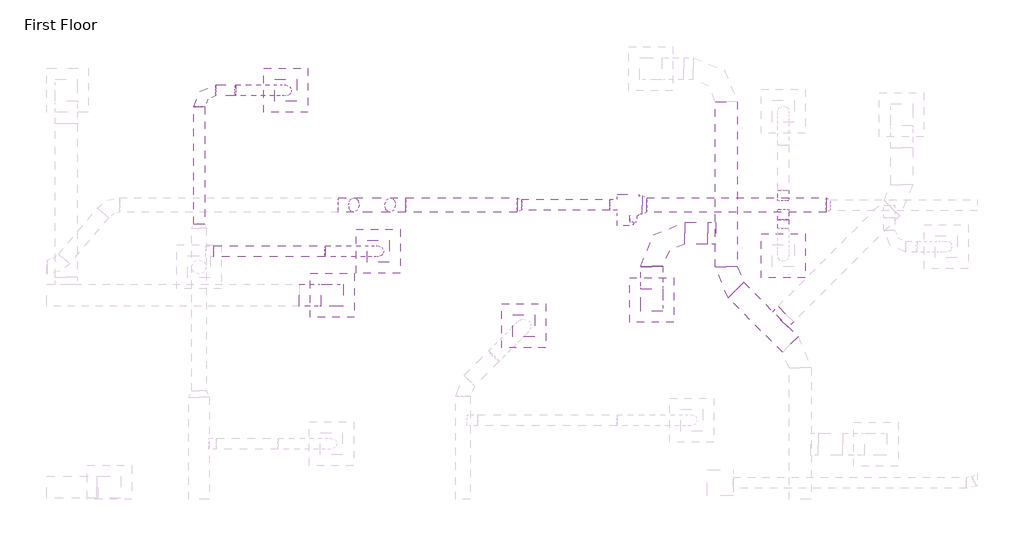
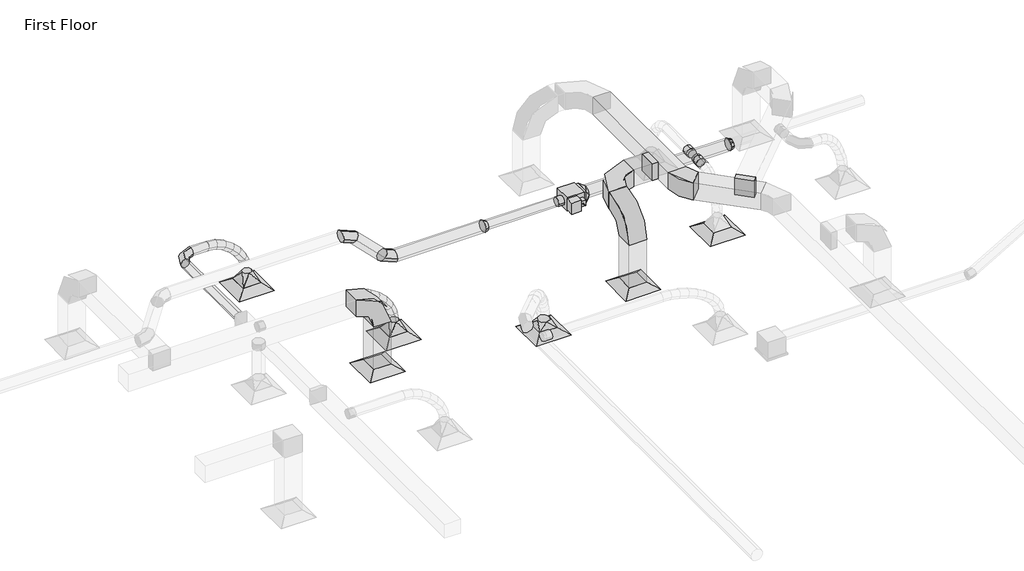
# One storey, part 31 of 61: 17 duct fittings, 16 duct segments, 6 air terminals, 1 proxy.
"""IFC4 building model written with IfcOpenShell, lengths in millimetres."""

from ifc_helpers import new_model, si_unit, point, frame, frame_2d, origin, place, context, project, spatial, polyline, circle_curve, ellipse_curve, trimmed, segment, composite_curve, outline, extrude, transform, mapped, element, save
from ifc_brep_helpers import plane_surface, cylinder_surface, advanced_brep
from components import m_exhaust_grill_er_600_x_600_face_300_x_300_connection_ff221211, m_vav_unit_single_duct_150_mm_ffdab17b, m_rectangular_elbow_radius_1_5_w_5bed5c13, m_rectangular_elbow_radius_1_5_w_86011e9f, m_rectangular_takeoff_standard_c00386d1, m_rectangular_takeoff_standard_b44bfa45, m_rectangular_to_round_transition_angle_45_degree_8f201c83, m_rectangular_to_round_transition_angle_45_degree_60daae35, m_rectangular_to_round_transition_angle_45_degree_1b7ae117, m_round_elbow_1_5_d_2e586196, m_round_elbow_1_5_d_f3829448, m_round_elbow_1_5_d_8bea4ac0, m_round_takeoff_standard_bf54a221, m_round_takeoff_standard_e1559ea3, m_round_transition_angle_45_degree_3fc7b733, m_round_transition_angle_45_degree_6d7b59ce

model = new_model("IFC4")

# Units and contexts
model_context = context("Model", 3, world=origin())
ifc_project = project(units=[si_unit("LENGTHUNIT", "METRE", prefix="MILLI")], contexts=[model_context])

# Site, building, storey
site = spatial("IfcSite", under=ifc_project)
building = spatial("IfcBuilding", under=site)
storey = spatial("IfcBuildingStorey", under=building, Name="First Floor", Elevation=0.0)

# Air terminals
placement = place(None, origin())
m_exhaust_grill_er_600_x_600_face_300_x_300_connection_shape = m_exhaust_grill_er_600_x_600_face_300_x_300_connection_ff221211(model_context)
element("IfcAirTerminal", 1, ObjectType="M_Return Register : RR-600 x 600 Face 300 x 300 Connection", at=placement, inside=storey, context=model_context, shape_type="MappedRepresentation", body=[
    mapped(m_exhaust_grill_er_600_x_600_face_300_x_300_connection_shape, transform((-6521.0475676, 24406.2905826, 2680.0), x_axis=(1.0, 0.0, 0.0), y_axis=(0.0, 1.0, 0.0), z_axis=(0.0, 0.0, 1.0))),
])
element("IfcAirTerminal", 2, ObjectType="M_Return Register : RR-600 x 600 Face 300 x 300 Connection", at=placement, inside=storey, context=model_context, shape_type="MappedRepresentation", body=[
    mapped(m_exhaust_grill_er_600_x_600_face_300_x_300_connection_shape, transform((-10865.3367225, 24469.0232506, 2680.0), x_axis=(1.0, 0.0, 0.0), y_axis=(0.0, 1.0, 0.0), z_axis=(0.0, 0.0, 1.0))),
])
element("IfcAirTerminal", 3, ObjectType="M_Supply Diffuser : SD-600 x 600 Face 300 x 300 Connection", at=placement, inside=storey, context=model_context, shape_type="MappedRepresentation", body=[
    mapped(m_exhaust_grill_er_600_x_600_face_300_x_300_connection_shape, transform((-4729.296973, 25007.077628, 2680.0), x_axis=(1.0, 0.0, 0.0), y_axis=(0.0, 1.0, 0.0), z_axis=(0.0, 0.0, 1.0))),
])
element("IfcAirTerminal", 4, ObjectType="M_Supply Diffuser : SD-600 x 600 Face 300 x 300 Connection", at=placement, inside=storey, context=model_context, shape_type="MappedRepresentation", body=[
    mapped(m_exhaust_grill_er_600_x_600_face_300_x_300_connection_shape, transform((-8260.6758163, 24053.9193172, 2680.0), x_axis=(1.0, 0.0, 0.0), y_axis=(0.0, 1.0, 0.0), z_axis=(0.0, 0.0, 1.0))),
])
element("IfcAirTerminal", 5, ObjectType="M_Supply Diffuser : SD-600 x 600 Face 300 x 300 Connection", at=placement, inside=storey, context=model_context, shape_type="MappedRepresentation", body=[
    mapped(m_exhaust_grill_er_600_x_600_face_300_x_300_connection_shape, transform((-11497.2799654, 27258.4577394, 2680.0), x_axis=(1.0, 0.0, 0.0), y_axis=(0.0, 1.0, 0.0), z_axis=(0.0, 0.0, 1.0))),
])
element("IfcAirTerminal", 6, ObjectType="M_Supply Diffuser : SD-600 x 600 Face 300 x 300 Connection", at=placement, inside=storey, context=model_context, shape_type="MappedRepresentation", body=[
    mapped(m_exhaust_grill_er_600_x_600_face_300_x_300_connection_shape, transform((-10242.3700714, 25070.5269041, 2680.0), x_axis=(1.0, 0.0, 0.0), y_axis=(0.0, 1.0, 0.0), z_axis=(0.0, 0.0, 1.0))),
])

# Proxy
m_vav_unit_single_duct_150_mm_shape = m_vav_unit_single_duct_150_mm_ffdab17b(model_context)
element("IfcBuildingElementProxy", 7, Name="M_VAV Unit - Single Duct : 150 mm", ObjectType="M_VAV Unit - Single Duct : 150 mm", at=placement, inside=storey, context=model_context, shape_type="MappedRepresentation", body=[
    mapped(m_vav_unit_single_duct_150_mm_shape, transform((-6989.2747853, 25699.0931749, 3500.0), x_axis=(1.0, 0.0, 0.0), y_axis=(0.0, 1.0, 0.0), z_axis=(0.0, 0.0, 1.0))),
])

# Duct fittings
m_rectangular_elbow_radius_1_5_w_shape = m_rectangular_elbow_radius_1_5_w_5bed5c13(model_context)
element("IfcDuctFitting", 8, ObjectType="M_Rectangular Elbow - Radius : 1.5 W", at=placement, inside=storey, context=model_context, shape_type="MappedRepresentation", body=[
    mapped(m_rectangular_elbow_radius_1_5_w_shape, transform((-5504.0823103, 24672.6856849, 4000.0), x_axis=(0.0, -1.0, 0.0), y_axis=(1.0, 0.0, 0.0), z_axis=(0.0, 0.0, 1.0))),
])
m_rectangular_elbow_radius_1_5_w_2_shape = m_rectangular_elbow_radius_1_5_w_86011e9f(model_context)
element("IfcDuctFitting", 9, ObjectType="M_Rectangular Elbow - Radius : 1.5 W", at=placement, inside=storey, context=model_context, shape_type="MappedRepresentation", body=[
    mapped(m_rectangular_elbow_radius_1_5_w_2_shape, transform((-6521.0475676, 24406.2905826, 4000.0), x_axis=(0.0, 0.0, 1.0), y_axis=(0.0, 1.0, 0.0), z_axis=(-1.0, 0.0, 0.0))),
])
element("IfcDuctFitting", 10, ObjectType="M_Rectangular Elbow - Radius : 1.5 W", at=placement, inside=storey, context=model_context, shape_type="MappedRepresentation", body=[
    mapped(m_rectangular_elbow_radius_1_5_w_2_shape, transform((-6521.0475676, 25316.7213635, 4000.0), x_axis=(-1.0, 0.0, 0.0), y_axis=(0.0, -1.0, 0.0), z_axis=(0.0, 0.0, 1.0))),
])
element("IfcDuctFitting", 11, ObjectType="M_Rectangular Elbow - Radius : 1.5 W", at=placement, inside=storey, context=model_context, shape_type="MappedRepresentation", body=[
    mapped(m_rectangular_elbow_radius_1_5_w_2_shape, transform((-10865.3367225, 24469.0232506, 4000.0), x_axis=(0.0, 0.0, 1.0), y_axis=(-1.0, 0.0, 0.0), z_axis=(0.0, -1.0, 0.0))),
])
m_rectangular_takeoff_standard_shape = m_rectangular_takeoff_standard_c00386d1(model_context)
element("IfcDuctFitting", 12, ObjectType="M_Rectangular Takeoff : Standard", at=placement, inside=storey, context=model_context, shape_type="MappedRepresentation", body=[
    mapped(m_rectangular_takeoff_standard_shape, transform((-4763.7334583, 24144.4688672, 4000.0), x_axis=(0.7071067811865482, 0.7071067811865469, 0.0), y_axis=(0.7071067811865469, -0.7071067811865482, 0.0), z_axis=(0.0, 0.0, -1.0))),
])
m_rectangular_takeoff_standard_2_shape = m_rectangular_takeoff_standard_b44bfa45(model_context)
element("IfcDuctFitting", 13, ObjectType="M_Rectangular Takeoff : Standard", at=placement, inside=storey, context=model_context, shape_type="MappedRepresentation", body=[
    mapped(m_rectangular_takeoff_standard_2_shape, transform((-5654.0823103, 25316.7213635, 4000.0), x_axis=(-1.0, 0.0, 0.0), y_axis=(0.0, 1.0, 0.0), z_axis=(0.0, 0.0, -1.0))),
])
m_rectangular_to_round_transition_angle_45_degree_shape = m_rectangular_to_round_transition_angle_45_degree_8f201c83(model_context)
element("IfcDuctFitting", 14, ObjectType="M_Rectangular to Round Transition - Angle : 45 Degree", at=placement, inside=storey, context=model_context, shape_type="MappedRepresentation", body=[
    mapped(m_rectangular_to_round_transition_angle_45_degree_shape, transform((-10242.3700714, 25070.5269041, 2781.6), x_axis=(0.0, 0.0, 1.0), y_axis=(1.0, 0.0, 0.0), z_axis=(0.0, 1.0, 0.0))),
])
element("IfcDuctFitting", 15, ObjectType="M_Rectangular to Round Transition - Angle : 45 Degree", at=placement, inside=storey, context=model_context, shape_type="MappedRepresentation", body=[
    mapped(m_rectangular_to_round_transition_angle_45_degree_shape, transform((-11497.2799654, 27258.4577394, 2781.6), x_axis=(0.0, 0.0, 1.0), y_axis=(1.0, 0.0, 0.0), z_axis=(0.0, 1.0, 0.0))),
])
m_rectangular_to_round_transition_angle_45_degree_2_shape = m_rectangular_to_round_transition_angle_45_degree_60daae35(model_context)
element("IfcDuctFitting", 16, ObjectType="M_Rectangular to Round Transition - Angle : 45 Degree", at=placement, inside=storey, context=model_context, shape_type="MappedRepresentation", body=[
    mapped(m_rectangular_to_round_transition_angle_45_degree_2_shape, transform((-8260.6758163, 24053.9193172, 2781.6), x_axis=(0.0, 0.0, 1.0), y_axis=(1.0, 0.0, 0.0), z_axis=(0.0, 1.0, 0.0))),
])
m_rectangular_to_round_transition_angle_45_degree_3_shape = m_rectangular_to_round_transition_angle_45_degree_1b7ae117(model_context)
element("IfcDuctFitting", 17, ObjectType="M_Rectangular to Round Transition - Angle : 45 Degree", at=placement, inside=storey, context=model_context, shape_type="MappedRepresentation", body=[
    mapped(m_rectangular_to_round_transition_angle_45_degree_3_shape, transform((-6646.4747853, 25699.0931749, 3619.05), x_axis=(1.0, 0.0, 0.0), y_axis=(0.0, 1.0, 0.0), z_axis=(0.0, 0.0, 1.0))),
])
m_round_elbow_1_5_d_shape = m_round_elbow_1_5_d_2e586196(model_context)
element("IfcDuctFitting", 18, ObjectType="M_Round Elbow : 1.5 D", at=placement, inside=storey, context=model_context, shape_type="MappedRepresentation", body=[
    mapped(m_round_elbow_1_5_d_shape, transform((-12680.2492424, 27258.4577394, 3644.1), x_axis=(-1.0, 0.0, 0.0), y_axis=(0.0, -1.0, 0.0), z_axis=(0.0, 0.0, 1.0))),
])
m_round_elbow_1_5_d_2_shape = m_round_elbow_1_5_d_f3829448(model_context)
element("IfcDuctFitting", 19, ObjectType="M_Round Elbow : 1.5 D", at=placement, inside=storey, context=model_context, shape_type="MappedRepresentation", body=[
    mapped(m_round_elbow_1_5_d_2_shape, transform((-10660.3747853, 25699.9431749, 4279.0), x_axis=(-0.707106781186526, 0.0, 0.707106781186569), y_axis=(-0.707106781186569, 0.0, -0.707106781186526), z_axis=(0.0, -1.0, 0.0))),
])
m_round_elbow_1_5_d_3_shape = m_round_elbow_1_5_d_8bea4ac0(model_context)
element("IfcDuctFitting", 20, ObjectType="M_Round Elbow : 1.5 D", at=placement, inside=storey, context=model_context, shape_type="MappedRepresentation", body=[
    mapped(m_round_elbow_1_5_d_3_shape, transform((-9990.8747853, 25699.9431749, 3609.5), x_axis=(-0.999999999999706, 0.0, 7.668752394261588e-07), y_axis=(7.668752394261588e-07, 0.0, 0.999999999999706), z_axis=(0.0, 1.0, 0.0))),
])
m_round_takeoff_standard_shape = m_round_takeoff_standard_bf54a221(model_context)
element("IfcDuctFitting", 21, ObjectType="M_Round Takeoff : Standard", at=placement, inside=storey, context=model_context, shape_type="MappedRepresentation", body=[
    mapped(m_round_takeoff_standard_shape, transform((-4729.296973, 25599.0931749, 3619.1), x_axis=(0.0, -1.0, 0.0), y_axis=(-1.0, 0.0, 0.0), z_axis=(0.0, 0.0, -1.0))),
])
m_round_takeoff_standard_2_shape = m_round_takeoff_standard_e1559ea3(model_context)
element("IfcDuctFitting", 22, ObjectType="M_Round Takeoff : Standard", at=placement, inside=storey, context=model_context, shape_type="MappedRepresentation", body=[
    mapped(m_round_takeoff_standard_2_shape, transform((-4729.296973, 25799.0931749, 3619.1), x_axis=(0.0, 1.0, 0.0), y_axis=(1.0, 0.0, 0.0), z_axis=(0.0, 0.0, -1.0))),
])
m_round_transition_angle_45_degree_shape = m_round_transition_angle_45_degree_3fc7b733(model_context)
element("IfcDuctFitting", 23, ObjectType="M_Round Transition - Angle : 45 Degree", at=placement, inside=storey, context=model_context, shape_type="MappedRepresentation", body=[
    mapped(m_round_transition_angle_45_degree_shape, transform((-8290.8747853, 25699.9431749, 3609.5), x_axis=(-0.9999999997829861, 0.0, -2.083333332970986e-05), y_axis=(0.0, -1.0, 0.0), z_axis=(-2.083333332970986e-05, 0.0, 0.9999999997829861))),
])
m_round_transition_angle_45_degree_2_shape = m_round_transition_angle_45_degree_6d7b59ce(model_context)
element("IfcDuctFitting", 24, ObjectType="M_Round Transition - Angle : 45 Degree", at=placement, inside=storey, context=model_context, shape_type="MappedRepresentation", body=[
    mapped(m_round_transition_angle_45_degree_2_shape, transform((-4146.4747853, 25699.0931749, 3619.1), x_axis=(1.0, 0.0, 0.0), y_axis=(0.0, 1.0, 0.0), z_axis=(0.0, 0.0, 1.0))),
])

# Duct segments
element("IfcDuctSegment", 25, ObjectType="Flex - Round", at=placement, inside=storey, context=model_context, shape_type="AdvancedBrep", body=[
    advanced_brep(
    [(-10960.2492424, 25145.5269041, 3644.1), (-10970.8108334, 25070.5269041, 3569.8473718), (-10960.2492424, 24995.5269041, 3644.1), (-10949.6876514, 25070.5269041, 3718.3526282), (-10816.5976935, 25145.5269041, 3623.6672026), (-10836.0299177, 25070.5269041, 3550.676321), (-10816.5976935, 24995.5269041, 3623.6672026), (-10797.1654693, 25070.5269041, 3696.6580842), (-10242.3700714, 25145.5269041, 2962.6660172), (-10168.2949987, 25070.5269041, 2974.4084021), (-10242.3700714, 24995.5269041, 2962.6660172), (-10316.4451441, 25070.5269041, 2950.9236323), (-10673.6435523, 25145.5269041, 3566.7194647), (-10708.2100298, 25070.5269041, 3499.75752), (-10673.6435523, 24995.5269041, 3566.7194647), (-10639.0770748, 25070.5269041, 3633.6814095), (-10539.1878504, 25145.5269041, 3479.7827678), (-10585.5150286, 25070.5269041, 3420.4250857), (-10539.1878504, 24995.5269041, 3479.7827678), (-10492.8606722, 25070.5269041, 3539.1404499), (-10421.0316197, 25145.5269041, 3369.3830932), (-10477.267375, 25070.5269041, 3319.2835236), (-10421.0316197, 24995.5269041, 3369.3830932), (-10364.7958644, 25070.5269041, 3419.4826627), (-10326.9758918, 25145.5269041, 3242.0464222), (-10392.0517313, 25070.5269041, 3203.9149372), (-10326.9758918, 24995.5269041, 3242.0464222), (-10261.9000523, 25070.5269041, 3280.1779073), (-10264.8216985, 25145.5269041, 3104.2987364), (-10337.3218502, 25070.5269041, 3082.6211986), (-10264.8216985, 24995.5269041, 3104.2987364), (-10192.3215468, 25070.5269041, 3125.9762743)],
    [
        (0, 1, circle_curve(frame((-10960.2492424, 25070.5269041, 3644.1), z_axis=(-0.9900350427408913, 0.0, 0.140821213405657), x_axis=(0.0, 1.0, 0.0)), 75.0)),
        (1, 2, circle_curve(frame((-10960.2492424, 25070.5269041, 3644.1), z_axis=(-0.9900350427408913, 0.0, 0.140821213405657), x_axis=(0.0, 1.0, 0.0)), 75.0)),
        (2, 3, circle_curve(frame((-10960.2492424, 25070.5269041, 3644.1), z_axis=(-0.9900350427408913, 0.0, 0.140821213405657), x_axis=(0.0, 1.0, 0.0)), 75.0)),
        (3, 0, circle_curve(frame((-10960.2492424, 25070.5269041, 3644.1), z_axis=(-0.9900350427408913, 0.0, 0.140821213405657), x_axis=(0.0, 1.0, 0.0)), 75.0)),
        (0, 4),
        (4, 5, ellipse_curve(frame((-10816.5976935, 25070.5269041, 3623.6672026), z_axis=(-0.9663403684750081, 0.0, 0.25726696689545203), x_axis=(-0.2572669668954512, 0.0, -0.9663403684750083)), 75.5333048, 75.0)),
        (5, 1),
        (5, 6, ellipse_curve(frame((-10816.5976935, 25070.5269041, 3623.6672026), z_axis=(-0.9663403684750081, 0.0, 0.25726696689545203), x_axis=(-0.2572669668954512, 0.0, -0.9663403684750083)), 75.5333048, 75.0)),
        (6, 2),
        (6, 7, ellipse_curve(frame((-10816.5976935, 25070.5269041, 3623.6672026), z_axis=(-0.9663403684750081, 0.0, 0.25726696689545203), x_axis=(-0.2572669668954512, 0.0, -0.9663403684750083)), 75.5333048, 75.0)),
        (7, 3),
        (7, 4, ellipse_curve(frame((-10816.5976935, 25070.5269041, 3623.6672026), z_axis=(-0.9663403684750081, 0.0, 0.25726696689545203), x_axis=(-0.2572669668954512, 0.0, -0.9663403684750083)), 75.5333048, 75.0)),
        (8, 9, circle_curve(frame((-10242.3700714, 25070.5269041, 2962.6660172), z_axis=(0.1565651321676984, 0.0, -0.9876676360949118), x_axis=(0.0, 1.0, 0.0)), 75.0)),
        (9, 10, circle_curve(frame((-10242.3700714, 25070.5269041, 2962.6660172), z_axis=(0.1565651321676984, 0.0, -0.9876676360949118), x_axis=(0.0, 1.0, 0.0)), 75.0)),
        (10, 11, circle_curve(frame((-10242.3700714, 25070.5269041, 2962.6660172), z_axis=(0.1565651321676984, 0.0, -0.9876676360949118), x_axis=(0.0, 1.0, 0.0)), 75.0)),
        (11, 8, circle_curve(frame((-10242.3700714, 25070.5269041, 2962.6660172), z_axis=(0.1565651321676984, 0.0, -0.9876676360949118), x_axis=(0.0, 1.0, 0.0)), 75.0)),
        (4, 12),
        (12, 13, ellipse_curve(frame((-10673.6435523, 25070.5269041, 3566.7194647), z_axis=(-0.8885910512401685, 0.0, 0.45870027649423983), x_axis=(-0.45870027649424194, 0.0, -0.8885910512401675)), 75.3574377, 75.0)),
        (13, 5),
        (13, 14, ellipse_curve(frame((-10673.6435523, 25070.5269041, 3566.7194647), z_axis=(-0.8885910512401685, 0.0, 0.45870027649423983), x_axis=(-0.45870027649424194, 0.0, -0.8885910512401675)), 75.3574377, 75.0)),
        (14, 6),
        (14, 15, ellipse_curve(frame((-10673.6435523, 25070.5269041, 3566.7194647), z_axis=(-0.8885910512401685, 0.0, 0.45870027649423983), x_axis=(-0.45870027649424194, 0.0, -0.8885910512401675)), 75.3574377, 75.0)),
        (15, 7),
        (15, 12, ellipse_curve(frame((-10673.6435523, 25070.5269041, 3566.7194647), z_axis=(-0.8885910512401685, 0.0, 0.45870027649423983), x_axis=(-0.45870027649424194, 0.0, -0.8885910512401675)), 75.3574377, 75.0)),
        (12, 16),
        (16, 17, ellipse_curve(frame((-10539.1878504, 25070.5269041, 3479.7827678), z_axis=(-0.78832073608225, 0.0, 0.6152645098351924), x_axis=(-0.6152645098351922, 0.0, -0.78832073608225)), 75.2963603, 75.0)),
        (17, 13),
        (17, 18, ellipse_curve(frame((-10539.1878504, 25070.5269041, 3479.7827678), z_axis=(-0.78832073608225, 0.0, 0.6152645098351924), x_axis=(-0.6152645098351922, 0.0, -0.78832073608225)), 75.2963603, 75.0)),
        (18, 14),
        (18, 19, ellipse_curve(frame((-10539.1878504, 25070.5269041, 3479.7827678), z_axis=(-0.78832073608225, 0.0, 0.6152645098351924), x_axis=(-0.6152645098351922, 0.0, -0.78832073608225)), 75.2963603, 75.0)),
        (19, 15),
        (19, 16, ellipse_curve(frame((-10539.1878504, 25070.5269041, 3479.7827678), z_axis=(-0.78832073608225, 0.0, 0.6152645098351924), x_axis=(-0.6152645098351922, 0.0, -0.78832073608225)), 75.2963603, 75.0)),
        (16, 20),
        (20, 21, ellipse_curve(frame((-10421.0316197, 25070.5269041, 3369.3830932), z_axis=(-0.665195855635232, 0.0, 0.7466689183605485), x_axis=(-0.7466689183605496, 0.0, -0.6651958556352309)), 75.3155166, 75.0)),
        (21, 17),
        (21, 22, ellipse_curve(frame((-10421.0316197, 25070.5269041, 3369.3830932), z_axis=(-0.665195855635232, 0.0, 0.7466689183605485), x_axis=(-0.7466689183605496, 0.0, -0.6651958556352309)), 75.3155166, 75.0)),
        (22, 18),
        (22, 23, ellipse_curve(frame((-10421.0316197, 25070.5269041, 3369.3830932), z_axis=(-0.665195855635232, 0.0, 0.7466689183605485), x_axis=(-0.7466689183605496, 0.0, -0.6651958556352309)), 75.3155166, 75.0)),
        (23, 19),
        (23, 20, ellipse_curve(frame((-10421.0316197, 25070.5269041, 3369.3830932), z_axis=(-0.665195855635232, 0.0, 0.7466689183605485), x_axis=(-0.7466689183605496, 0.0, -0.6651958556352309)), 75.3155166, 75.0)),
        (20, 24),
        (24, 25, ellipse_curve(frame((-10326.9758918, 25070.5269041, 3242.0464222), z_axis=(-0.5055574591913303, 0.0, 0.8627929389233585), x_axis=(-0.8627929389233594, 0.0, -0.5055574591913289)), 75.4246315, 75.0)),
        (25, 21),
        (25, 26, ellipse_curve(frame((-10326.9758918, 25070.5269041, 3242.0464222), z_axis=(-0.5055574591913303, 0.0, 0.8627929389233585), x_axis=(-0.8627929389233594, 0.0, -0.5055574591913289)), 75.4246315, 75.0)),
        (26, 22),
        (26, 27, ellipse_curve(frame((-10326.9758918, 25070.5269041, 3242.0464222), z_axis=(-0.5055574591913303, 0.0, 0.8627929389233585), x_axis=(-0.8627929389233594, 0.0, -0.5055574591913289)), 75.4246315, 75.0)),
        (27, 23),
        (27, 24, ellipse_curve(frame((-10326.9758918, 25070.5269041, 3242.0464222), z_axis=(-0.5055574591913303, 0.0, 0.8627929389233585), x_axis=(-0.8627929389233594, 0.0, -0.5055574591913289)), 75.4246315, 75.0)),
        (24, 28),
        (28, 29, ellipse_curve(frame((-10264.8216985, 25070.5269041, 3104.2987364), z_axis=(-0.2864686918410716, 0.0, 0.9580896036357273), x_axis=(-0.9580896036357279, 0.0, -0.28646869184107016)), 75.6715775, 75.0)),
        (29, 25),
        (29, 30, ellipse_curve(frame((-10264.8216985, 25070.5269041, 3104.2987364), z_axis=(-0.2864686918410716, 0.0, 0.9580896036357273), x_axis=(-0.9580896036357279, 0.0, -0.28646869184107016)), 75.6715775, 75.0)),
        (30, 26),
        (30, 31, ellipse_curve(frame((-10264.8216985, 25070.5269041, 3104.2987364), z_axis=(-0.2864686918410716, 0.0, 0.9580896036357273), x_axis=(-0.9580896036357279, 0.0, -0.28646869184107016)), 75.6715775, 75.0)),
        (31, 27),
        (31, 28, ellipse_curve(frame((-10264.8216985, 25070.5269041, 3104.2987364), z_axis=(-0.2864686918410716, 0.0, 0.9580896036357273), x_axis=(-0.9580896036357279, 0.0, -0.28646869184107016)), 75.6715775, 75.0)),
        (28, 8),
        (11, 29),
        (10, 30),
        (9, 31),
    ],
    [
        plane_surface(frame((-10960.2492424, 25145.5269041, 3644.1), z_axis=(-0.9900350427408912, 0.0, 0.14082121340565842), x_axis=(0.14082121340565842, 0.0, 0.9900350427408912))),
        cylinder_surface(frame((-10960.2492424, 25070.5269041, 3644.1), z_axis=(-0.9900350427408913, 0.0, 0.140821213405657), x_axis=(0.0, 1.0, 0.0)), 75.0),
        plane_surface(frame((-10242.3700714, 25145.5269041, 2962.6660172), z_axis=(0.15656513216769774, 0.0, -0.9876676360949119), x_axis=(0.9876676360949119, 0.0, 0.15656513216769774))),
        cylinder_surface(frame((-10816.5976935, 25070.5269041, 3623.6672026), z_axis=(-0.9289999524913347, 0.0, 0.3700798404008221), x_axis=(0.0, 1.0, 0.0)), 75.0),
        cylinder_surface(frame((-10673.6435523, 25070.5269041, 3566.7194647), z_axis=(-0.8397525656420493, 0.0, 0.5429692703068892), x_axis=(0.0, 1.0, 0.0)), 75.0),
        cylinder_surface(frame((-10539.1878504, 25070.5269041, 3479.7827678), z_axis=(-0.7306833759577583, 0.0, 0.6827164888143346), x_axis=(0.0, 1.0, 0.0)), 75.0),
        cylinder_surface(frame((-10421.0316197, 25070.5269041, 3369.3830932), z_axis=(-0.5941349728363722, 0.0, 0.8043653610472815), x_axis=(0.0, 1.0, 0.0)), 75.0),
        cylinder_surface(frame((-10326.9758918, 25070.5269041, 3242.0464222), z_axis=(-0.4112874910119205, 0.0, 0.9115056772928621), x_axis=(0.0, 1.0, 0.0)), 75.0),
        cylinder_surface(frame((-10264.8216985, 25070.5269041, 3104.2987364), z_axis=(-0.1565651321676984, 0.0, 0.9876676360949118), x_axis=(0.0, 1.0, 0.0)), 75.0),
    ],
    [
        (0, [[1, 2, 3, 4]]),
        (1, [[-1, 5, 6, 7]]),
        (1, [[-2, -7, 8, 9]]),
        (1, [[-3, -9, 10, 11]]),
        (1, [[-4, -11, 12, -5]]),
        (2, [[13, 14, 15, 16]]),
        (3, [[-6, 17, 18, 19]]),
        (3, [[-8, -19, 20, 21]]),
        (3, [[-10, -21, 22, 23]]),
        (3, [[-12, -23, 24, -17]]),
        (4, [[-18, 25, 26, 27]]),
        (4, [[-20, -27, 28, 29]]),
        (4, [[-22, -29, 30, 31]]),
        (4, [[-24, -31, 32, -25]]),
        (5, [[-26, 33, 34, 35]]),
        (5, [[-28, -35, 36, 37]]),
        (5, [[-30, -37, 38, 39]]),
        (5, [[-32, -39, 40, -33]]),
        (6, [[-34, 41, 42, 43]]),
        (6, [[-36, -43, 44, 45]]),
        (6, [[-38, -45, 46, 47]]),
        (6, [[-40, -47, 48, -41]]),
        (7, [[-42, 49, 50, 51]]),
        (7, [[-44, -51, 52, 53]]),
        (7, [[-46, -53, 54, 55]]),
        (7, [[-48, -55, 56, -49]]),
        (8, [[-50, 57, -16, 58]]),
        (8, [[-52, -58, -15, 59]]),
        (8, [[-54, -59, -14, 60]]),
        (8, [[-56, -60, -13, -57]]),
    ],
),
])
element("IfcDuctSegment", 26, ObjectType="Flex - Round", at=placement, inside=storey, context=model_context, shape_type="AdvancedBrep", body=[
    advanced_brep(
    [(-12180.2492424, 27333.4577394, 3644.1), (-12191.3782703, 27258.4577394, 3569.9302977), (-12180.2492424, 27183.4577394, 3644.1), (-12169.1202145, 27258.4577394, 3718.2697023), (-12041.1574787, 27333.4577394, 3623.2295358), (-12061.6625052, 27258.4577394, 3550.4666849), (-12041.1574787, 27183.4577394, 3623.2295358), (-12020.6524522, 27258.4577394, 3695.9923867), (-11497.2799654, 27333.4577394, 2962.6660172), (-11423.117938, 27258.4577394, 2973.8460745), (-11497.2799654, 27183.4577394, 2962.6660172), (-11571.4419929, 27258.4577394, 2951.4859598), (-11904.2116878, 27333.4577394, 3565.2605753), (-11940.4892646, 27258.4577394, 3499.1742228), (-11904.2116878, 27183.4577394, 3565.2605753), (-11867.934111, 27258.4577394, 3631.3469279), (-11776.4292308, 27333.4577394, 3477.1567668), (-11824.5835012, 27258.4577394, 3419.2591904), (-11776.4292308, 27183.4577394, 3477.1567668), (-11728.2749604, 27258.4577394, 3535.0543432), (-11664.8274689, 27333.4577394, 3365.8817585), (-11722.5901157, 27258.4577394, 3317.5644266), (-11664.8274689, 27183.4577394, 3365.8817585), (-11607.0648222, 27258.4577394, 3414.1990904), (-11576.4237633, 27333.4577394, 3238.3991986), (-11642.4286176, 27258.4577394, 3201.9675417), (-11576.4237633, 27183.4577394, 3238.3991986), (-11510.418909, 27258.4577394, 3274.8308555), (-11518.2354751, 27333.4577394, 3101.6727354), (-11590.9771199, 27258.4577394, 3081.0706823), (-11518.2354751, 27183.4577394, 3101.6727354), (-11445.4938302, 27258.4577394, 3122.2747886)],
    [
        (0, 1, circle_curve(frame((-12180.2492424, 27258.4577394, 3644.1), z_axis=(-0.9889293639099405, 0.0, 0.14838703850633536), x_axis=(0.0, 1.0, 0.0)), 75.0)),
        (1, 2, circle_curve(frame((-12180.2492424, 27258.4577394, 3644.1), z_axis=(-0.9889293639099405, 0.0, 0.14838703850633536), x_axis=(0.0, 1.0, 0.0)), 75.0)),
        (2, 3, circle_curve(frame((-12180.2492424, 27258.4577394, 3644.1), z_axis=(-0.9889293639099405, 0.0, 0.14838703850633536), x_axis=(0.0, 1.0, 0.0)), 75.0)),
        (3, 0, circle_curve(frame((-12180.2492424, 27258.4577394, 3644.1), z_axis=(-0.9889293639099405, 0.0, 0.14838703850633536), x_axis=(0.0, 1.0, 0.0)), 75.0)),
        (0, 4),
        (4, 5, ellipse_curve(frame((-12041.1574787, 27258.4577394, 3623.2295358), z_axis=(-0.9625112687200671, 0.0, 0.2712416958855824), x_axis=(-0.27124169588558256, 0.0, -0.9625112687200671)), 75.5968821, 75.0)),
        (5, 1),
        (5, 6, ellipse_curve(frame((-12041.1574787, 27258.4577394, 3623.2295358), z_axis=(-0.9625112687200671, 0.0, 0.2712416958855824), x_axis=(-0.27124169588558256, 0.0, -0.9625112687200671)), 75.5968821, 75.0)),
        (6, 2),
        (6, 7, ellipse_curve(frame((-12041.1574787, 27258.4577394, 3623.2295358), z_axis=(-0.9625112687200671, 0.0, 0.2712416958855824), x_axis=(-0.27124169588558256, 0.0, -0.9625112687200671)), 75.5968821, 75.0)),
        (7, 3),
        (7, 4, ellipse_curve(frame((-12041.1574787, 27258.4577394, 3623.2295358), z_axis=(-0.9625112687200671, 0.0, 0.2712416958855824), x_axis=(-0.27124169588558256, 0.0, -0.9625112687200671)), 75.5968821, 75.0)),
        (8, 9, circle_curve(frame((-11497.2799654, 27258.4577394, 2962.6660172), z_axis=(0.14906743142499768, 0.0, -0.9888270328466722), x_axis=(0.0, 1.0, 0.0)), 75.0)),
        (9, 10, circle_curve(frame((-11497.2799654, 27258.4577394, 2962.6660172), z_axis=(0.14906743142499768, 0.0, -0.9888270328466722), x_axis=(0.0, 1.0, 0.0)), 75.0)),
        (10, 11, circle_curve(frame((-11497.2799654, 27258.4577394, 2962.6660172), z_axis=(0.14906743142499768, 0.0, -0.9888270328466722), x_axis=(0.0, 1.0, 0.0)), 75.0)),
        (11, 8, circle_curve(frame((-11497.2799654, 27258.4577394, 2962.6660172), z_axis=(0.14906743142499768, 0.0, -0.9888270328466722), x_axis=(0.0, 1.0, 0.0)), 75.0)),
        (4, 12),
        (12, 13, ellipse_curve(frame((-11904.2116878, 27258.4577394, 3565.2605753), z_axis=(-0.8766072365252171, 0.0, 0.48120655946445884), x_axis=(-0.4812065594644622, 0.0, -0.8766072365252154)), 75.3887828, 75.0)),
        (13, 5),
        (13, 14, ellipse_curve(frame((-11904.2116878, 27258.4577394, 3565.2605753), z_axis=(-0.8766072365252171, 0.0, 0.48120655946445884), x_axis=(-0.4812065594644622, 0.0, -0.8766072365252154)), 75.3887828, 75.0)),
        (14, 6),
        (14, 15, ellipse_curve(frame((-11904.2116878, 27258.4577394, 3565.2605753), z_axis=(-0.8766072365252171, 0.0, 0.48120655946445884), x_axis=(-0.4812065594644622, 0.0, -0.8766072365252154)), 75.3887828, 75.0)),
        (15, 7),
        (15, 12, ellipse_curve(frame((-11904.2116878, 27258.4577394, 3565.2605753), z_axis=(-0.8766072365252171, 0.0, 0.48120655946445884), x_axis=(-0.4812065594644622, 0.0, -0.8766072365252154)), 75.3887828, 75.0)),
        (12, 16),
        (16, 17, ellipse_curve(frame((-11776.4292308, 27258.4577394, 3477.1567668), z_axis=(-0.7688329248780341, 0.0, 0.6394497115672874), x_axis=(-0.6394497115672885, 0.0, -0.7688329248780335)), 75.3057973, 75.0)),
        (17, 13),
        (17, 18, ellipse_curve(frame((-11776.4292308, 27258.4577394, 3477.1567668), z_axis=(-0.7688329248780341, 0.0, 0.6394497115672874), x_axis=(-0.6394497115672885, 0.0, -0.7688329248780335)), 75.3057973, 75.0)),
        (18, 14),
        (18, 19, ellipse_curve(frame((-11776.4292308, 27258.4577394, 3477.1567668), z_axis=(-0.7688329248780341, 0.0, 0.6394497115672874), x_axis=(-0.6394497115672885, 0.0, -0.7688329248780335)), 75.3057973, 75.0)),
        (19, 15),
        (19, 16, ellipse_curve(frame((-11776.4292308, 27258.4577394, 3477.1567668), z_axis=(-0.7688329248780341, 0.0, 0.6394497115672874), x_axis=(-0.6394497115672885, 0.0, -0.7688329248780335)), 75.3057973, 75.0)),
        (16, 20),
        (20, 21, ellipse_curve(frame((-11664.8274689, 27258.4577394, 3365.8817585), z_axis=(-0.6416079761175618, 0.0, 0.7670327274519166), x_axis=(-0.7670327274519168, 0.0, -0.6416079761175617)), 75.306626, 75.0)),
        (21, 17),
        (21, 22, ellipse_curve(frame((-11664.8274689, 27258.4577394, 3365.8817585), z_axis=(-0.6416079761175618, 0.0, 0.7670327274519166), x_axis=(-0.7670327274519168, 0.0, -0.6416079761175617)), 75.306626, 75.0)),
        (22, 18),
        (22, 23, ellipse_curve(frame((-11664.8274689, 27258.4577394, 3365.8817585), z_axis=(-0.6416079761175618, 0.0, 0.7670327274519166), x_axis=(-0.7670327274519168, 0.0, -0.6416079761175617)), 75.306626, 75.0)),
        (23, 19),
        (23, 20, ellipse_curve(frame((-11664.8274689, 27258.4577394, 3365.8817585), z_axis=(-0.6416079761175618, 0.0, 0.7670327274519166), x_axis=(-0.7670327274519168, 0.0, -0.6416079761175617)), 75.306626, 75.0)),
        (20, 24),
        (24, 25, ellipse_curve(frame((-11576.4237633, 27258.4577394, 3238.3991986), z_axis=(-0.48323175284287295, 0.0, 0.8754924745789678), x_axis=(-0.8754924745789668, 0.0, -0.48323175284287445)), 75.3916867, 75.0)),
        (25, 21),
        (25, 26, ellipse_curve(frame((-11576.4237633, 27258.4577394, 3238.3991986), z_axis=(-0.48323175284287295, 0.0, 0.8754924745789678), x_axis=(-0.8754924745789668, 0.0, -0.48323175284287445)), 75.3916867, 75.0)),
        (26, 22),
        (26, 27, ellipse_curve(frame((-11576.4237633, 27258.4577394, 3238.3991986), z_axis=(-0.48323175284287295, 0.0, 0.8754924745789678), x_axis=(-0.8754924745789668, 0.0, -0.48323175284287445)), 75.3916867, 75.0)),
        (27, 23),
        (27, 24, ellipse_curve(frame((-11576.4237633, 27258.4577394, 3238.3991986), z_axis=(-0.48323175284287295, 0.0, 0.8754924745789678), x_axis=(-0.8754924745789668, 0.0, -0.48323175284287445)), 75.3916867, 75.0)),
        (24, 28),
        (28, 29, ellipse_curve(frame((-11518.2354751, 27258.4577394, 3101.6727354), z_axis=(-0.27250364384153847, 0.0, 0.9621547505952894), x_axis=(-0.9621547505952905, 0.0, -0.27250364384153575)), 75.6028537, 75.0)),
        (29, 25),
        (29, 30, ellipse_curve(frame((-11518.2354751, 27258.4577394, 3101.6727354), z_axis=(-0.27250364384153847, 0.0, 0.9621547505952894), x_axis=(-0.9621547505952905, 0.0, -0.27250364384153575)), 75.6028537, 75.0)),
        (30, 26),
        (30, 31, ellipse_curve(frame((-11518.2354751, 27258.4577394, 3101.6727354), z_axis=(-0.27250364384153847, 0.0, 0.9621547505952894), x_axis=(-0.9621547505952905, 0.0, -0.27250364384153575)), 75.6028537, 75.0)),
        (31, 27),
        (31, 28, ellipse_curve(frame((-11518.2354751, 27258.4577394, 3101.6727354), z_axis=(-0.27250364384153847, 0.0, 0.9621547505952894), x_axis=(-0.9621547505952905, 0.0, -0.27250364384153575)), 75.6028537, 75.0)),
        (28, 8),
        (11, 29),
        (10, 30),
        (9, 31),
    ],
    [
        plane_surface(frame((-12180.2492424, 27333.4577394, 3644.1), z_axis=(-0.9889293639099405, 0.0, 0.14838703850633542), x_axis=(0.14838703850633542, 0.0, 0.9889293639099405))),
        cylinder_surface(frame((-12180.2492424, 27258.4577394, 3644.1), z_axis=(-0.9889293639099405, 0.0, 0.14838703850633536), x_axis=(0.0, 1.0, 0.0)), 75.0),
        plane_surface(frame((-11497.2799654, 27333.4577394, 2962.6660172), z_axis=(0.14906743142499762, 0.0, -0.9888270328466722), x_axis=(0.9888270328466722, 0.0, 0.14906743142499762))),
        cylinder_surface(frame((-12041.1574787, 27258.4577394, 3623.2295358), z_axis=(-0.9208939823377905, 0.0, 0.389813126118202), x_axis=(0.0, 1.0, 0.0)), 75.0),
        cylinder_surface(frame((-11904.2116878, 27258.4577394, 3565.2605753), z_axis=(-0.8232790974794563, 0.0, 0.5676367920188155), x_axis=(0.0, 1.0, 0.0)), 75.0),
        cylinder_surface(frame((-11776.4292308, 27258.4577394, 3477.1567668), z_axis=(-0.708142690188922, 0.0, 0.7060693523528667), x_axis=(0.0, 1.0, 0.0)), 75.0),
        cylinder_surface(frame((-11664.8274689, 27258.4577394, 3365.8817585), z_axis=(-0.5698483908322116, 0.0, 0.8217498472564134), x_axis=(0.0, 1.0, 0.0)), 75.0),
        cylinder_surface(frame((-11576.4237633, 27258.4577394, 3238.3991986), z_axis=(-0.3915939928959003, 0.0, 0.9201381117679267), x_axis=(0.0, 1.0, 0.0)), 75.0),
        cylinder_surface(frame((-11518.2354751, 27258.4577394, 3101.6727354), z_axis=(-0.14906743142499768, 0.0, 0.9888270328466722), x_axis=(0.0, 1.0, 0.0)), 75.0),
    ],
    [
        (0, [[1, 2, 3, 4]]),
        (1, [[-1, 5, 6, 7]]),
        (1, [[-2, -7, 8, 9]]),
        (1, [[-3, -9, 10, 11]]),
        (1, [[-4, -11, 12, -5]]),
        (2, [[13, 14, 15, 16]]),
        (3, [[-6, 17, 18, 19]]),
        (3, [[-8, -19, 20, 21]]),
        (3, [[-10, -21, 22, 23]]),
        (3, [[-12, -23, 24, -17]]),
        (4, [[-18, 25, 26, 27]]),
        (4, [[-20, -27, 28, 29]]),
        (4, [[-22, -29, 30, 31]]),
        (4, [[-24, -31, 32, -25]]),
        (5, [[-26, 33, 34, 35]]),
        (5, [[-28, -35, 36, 37]]),
        (5, [[-30, -37, 38, 39]]),
        (5, [[-32, -39, 40, -33]]),
        (6, [[-34, 41, 42, 43]]),
        (6, [[-36, -43, 44, 45]]),
        (6, [[-38, -45, 46, 47]]),
        (6, [[-40, -47, 48, -41]]),
        (7, [[-42, 49, 50, 51]]),
        (7, [[-44, -51, 52, 53]]),
        (7, [[-46, -53, 54, 55]]),
        (7, [[-48, -55, 56, -49]]),
        (8, [[-50, 57, -16, 58]]),
        (8, [[-52, -58, -15, 59]]),
        (8, [[-54, -59, -14, 60]]),
        (8, [[-56, -60, -13, -57]]),
    ],
),
])
element("IfcDuctSegment", 27, ObjectType="Radius Elbows / Taps", at=placement, inside=storey, context=model_context, shape_type="SweptSolid", body=[
    extrude(outline(polyline([(-4526.1684415, 23906.9038505), (-4738.3004759, 23694.7718161), (-5478.346379, 24434.8177193), (-5266.2143447, 24646.9497536), (-4526.1684415, 23906.9038505)])), frame((0.0, 0.0, 3850.0), z_axis=(0.0, 0.0, 1.0), x_axis=(1.0, 0.0, 0.0)), (0.0, 0.0, 1.0), 300.0),
])
element("IfcDuctSegment", 28, ObjectType="Radius Elbows / Taps", at=placement, inside=storey, context=model_context, shape_type="SweptSolid", body=[
    extrude(outline(polyline([(-5354.0823103, 24859.081788), (-5654.0823103, 24859.081788), (-5654.0823103, 27105.9279557), (-5354.0823103, 27105.9279557), (-5354.0823103, 24859.081788)])), frame((0.0, 0.0, 3850.0), z_axis=(0.0, 0.0, 1.0), x_axis=(1.0, 0.0, 0.0)), (0.0, 0.0, 1.0), 300.0),
])
element("IfcDuctSegment", 29, ObjectType="Radius Elbows / Taps", at=placement, inside=storey, context=model_context, shape_type="SweptSolid", body=[
    extrude(outline(polyline([(-5754.0823103, 25466.7213635), (-5754.0823103, 25166.7213635), (-6071.0475676, 25166.7213635), (-6071.0475676, 25466.7213635), (-5754.0823103, 25466.7213635)])), frame((0.0, 0.0, 3850.0), z_axis=(0.0, 0.0, 1.0), x_axis=(1.0, 0.0, 0.0)), (0.0, 0.0, 1.0), 300.0),
])
element("IfcDuctSegment", 30, ObjectType="Radius Elbows / Taps", at=placement, inside=storey, context=model_context, shape_type="SweptSolid", body=[
    extrude(outline(polyline([(-6371.0475676, 24856.2905826), (-6671.0475676, 24856.2905826), (-6671.0475676, 24866.7213635), (-6371.0475676, 24866.7213635), (-6371.0475676, 24856.2905826)])), frame((0.0, 0.0, 3850.0), z_axis=(0.0, 0.0, 1.0), x_axis=(1.0, 0.0, 0.0)), (0.0, 0.0, 1.0), 300.0),
])
element("IfcDuctSegment", 31, ObjectType="Radius Elbows / Taps", at=placement, inside=storey, context=model_context, shape_type="SweptSolid", body=[
    extrude(outline(polyline([(-6671.0475676, 24556.2905826), (-6371.0475676, 24556.2905826), (-6371.0475676, 24256.2905826), (-6671.0475676, 24256.2905826), (-6671.0475676, 24556.2905826)])), frame((0.0, 0.0, 2781.6), z_axis=(0.0, 0.0, 1.0), x_axis=(1.0, 0.0, 0.0)), (0.0, 0.0, 1.0), 768.4),
])
element("IfcDuctSegment", 32, ObjectType="Radius Elbows / Taps", at=placement, inside=storey, context=model_context, shape_type="SweptSolid", body=[
    extrude(outline(polyline([(-11015.3367225, 24319.0232506), (-11015.3367225, 24619.0232506), (-10715.3367225, 24619.0232506), (-10715.3367225, 24319.0232506), (-11015.3367225, 24319.0232506)])), frame((0.0, 0.0, 2781.6), z_axis=(0.0, 0.0, 1.0), x_axis=(1.0, 0.0, 0.0)), (0.0, 0.0, 1.0), 768.4),
])
element("IfcDuctSegment", 33, ObjectType="Taps", at=placement, inside=storey, context=model_context, shape_type="SweptSolid", body=[
    extrude(outline(composite_curve([segment(trimmed(circle_curve(frame_2d((25699.0931749, 3619.1)), 100.0), [point((25599.0931749, 3619.1))], [point((25699.0931749, 3719.1))], False, "CARTESIAN"), True, "CONTINUOUS"), segment(trimmed(circle_curve(frame_2d((25699.0931749, 3619.1)), 100.0), [point((25699.0931749, 3719.1))], [point((25799.0931749, 3619.1))], False, "CARTESIAN"), True, "CONTINUOUS"), segment(trimmed(circle_curve(frame_2d((25699.0931749, 3619.1)), 100.0), [point((25799.0931749, 3619.1))], [point((25699.0931749, 3519.1))], False, "CARTESIAN"), True, "CONTINUOUS"), segment(trimmed(circle_curve(frame_2d((25699.0931749, 3619.1)), 100.0), [point((25699.0931749, 3519.1))], [point((25599.0931749, 3619.1))], False, "CARTESIAN"), True, "CONTINUOUS")], self_intersect=False)), frame((-6586.1194462, 0.0, 0.0), z_axis=(1.0, 0.0, 0.0), x_axis=(0.0, 1.0, 0.0)), (0.0, 0.0, 1.0), 2439.6446609),
])
element("IfcDuctSegment", 34, ObjectType="Taps", at=placement, inside=storey, context=model_context, shape_type="SweptSolid", body=[
    extrude(outline(composite_curve([segment(trimmed(circle_curve(frame_2d((3619.1, -4729.296973)), 75.0), [point((3619.1, -4804.296973))], [point((3544.1, -4729.296973))], False, "CARTESIAN"), True, "CONTINUOUS"), segment(trimmed(circle_curve(frame_2d((3619.1, -4729.296973)), 75.0), [point((3544.1, -4729.296973))], [point((3619.1, -4654.296973))], False, "CARTESIAN"), True, "CONTINUOUS"), segment(trimmed(circle_curve(frame_2d((3619.1, -4729.296973)), 75.0), [point((3619.1, -4654.296973))], [point((3694.1, -4729.296973))], False, "CARTESIAN"), True, "CONTINUOUS"), segment(trimmed(circle_curve(frame_2d((3619.1, -4729.296973)), 75.0), [point((3694.1, -4729.296973))], [point((3619.1, -4804.296973))], False, "CARTESIAN"), True, "CONTINUOUS")], self_intersect=False)), frame((0.0, 25379.0931749, 0.0), z_axis=(0.0, 1.0, 0.0), x_axis=(0.0, 0.0, 1.0)), (0.0, 0.0, 1.0), 120.0),
])
element("IfcDuctSegment", 35, ObjectType="Taps", at=placement, inside=storey, context=model_context, shape_type="SweptSolid", body=[
    extrude(outline(composite_curve([segment(trimmed(circle_curve(frame_2d((3644.1, -12680.2492424)), 75.0), [point((3644.1, -12605.2492424))], [point((3719.1, -12680.2492424))], False, "CARTESIAN"), True, "CONTINUOUS"), segment(trimmed(circle_curve(frame_2d((3644.1, -12680.2492424)), 75.0), [point((3719.1, -12680.2492424))], [point((3644.1, -12755.2492424))], False, "CARTESIAN"), True, "CONTINUOUS"), segment(trimmed(circle_curve(frame_2d((3644.1, -12680.2492424)), 75.0), [point((3644.1, -12755.2492424))], [point((3569.1, -12680.2492424))], False, "CARTESIAN"), True, "CONTINUOUS"), segment(trimmed(circle_curve(frame_2d((3644.1, -12680.2492424)), 75.0), [point((3569.1, -12680.2492424))], [point((3644.1, -12605.2492424))], False, "CARTESIAN"), True, "CONTINUOUS")], self_intersect=False)), frame((0.0, 25440.2149972, 0.0), z_axis=(0.0, 1.0, 0.0), x_axis=(0.0, 0.0, 1.0)), (0.0, 0.0, 1.0), 1593.2427422),
])
element("IfcDuctSegment", 36, ObjectType="Taps", at=placement, inside=storey, context=model_context, shape_type="SweptSolid", body=[
    extrude(outline(composite_curve([segment(trimmed(circle_curve(frame_2d((27258.4577394, 3644.1)), 75.0), [point((27183.4577394, 3644.1))], [point((27258.4577394, 3719.1))], False, "CARTESIAN"), True, "CONTINUOUS"), segment(trimmed(circle_curve(frame_2d((27258.4577394, 3644.1)), 75.0), [point((27258.4577394, 3719.1))], [point((27333.4577394, 3644.1))], False, "CARTESIAN"), True, "CONTINUOUS"), segment(trimmed(circle_curve(frame_2d((27258.4577394, 3644.1)), 75.0), [point((27333.4577394, 3644.1))], [point((27258.4577394, 3569.1))], False, "CARTESIAN"), True, "CONTINUOUS"), segment(trimmed(circle_curve(frame_2d((27258.4577394, 3644.1)), 75.0), [point((27258.4577394, 3569.1))], [point((27183.4577394, 3644.1))], False, "CARTESIAN"), True, "CONTINUOUS")], self_intersect=False)), frame((-12455.2492424, 0.0, 0.0), z_axis=(1.0, 0.0, 0.0), x_axis=(0.0, 1.0, 0.0)), (0.0, 0.0, 1.0), 275.0),
])
element("IfcDuctSegment", 37, ObjectType="Taps", at=placement, inside=storey, context=model_context, shape_type="SweptSolid", body=[
    extrude(outline(composite_curve([segment(trimmed(circle_curve(frame_2d((25070.5269041, 3644.1)), 75.0), [point((24995.5269041, 3644.1))], [point((25070.5269041, 3719.1))], False, "CARTESIAN"), True, "CONTINUOUS"), segment(trimmed(circle_curve(frame_2d((25070.5269041, 3644.1)), 75.0), [point((25070.5269041, 3719.1))], [point((25145.5269041, 3644.1))], False, "CARTESIAN"), True, "CONTINUOUS"), segment(trimmed(circle_curve(frame_2d((25070.5269041, 3644.1)), 75.0), [point((25145.5269041, 3644.1))], [point((25070.5269041, 3569.1))], False, "CARTESIAN"), True, "CONTINUOUS"), segment(trimmed(circle_curve(frame_2d((25070.5269041, 3644.1)), 75.0), [point((25070.5269041, 3569.1))], [point((24995.5269041, 3644.1))], False, "CARTESIAN"), True, "CONTINUOUS")], self_intersect=False)), frame((-12480.2492424, 0.0, 0.0), z_axis=(1.0, 0.0, 0.0), x_axis=(0.0, 1.0, 0.0)), (0.0, 0.0, 1.0), 1520.0),
])
element("IfcDuctSegment", 38, ObjectType="Taps", at=placement, inside=storey, context=model_context, shape_type="SweptSolid", body=[
    extrude(outline(composite_curve([segment(trimmed(circle_curve(frame_2d((0.0, -75.0)), 75.0), [point((-75.0, -75.0))], [point((0.0, 0.0))], False, "CARTESIAN"), True, "CONTINUOUS"), segment(trimmed(circle_curve(frame_2d((0.0, -75.0)), 75.0), [point((0.0, 0.0))], [point((75.0, -75.0))], False, "CARTESIAN"), True, "CONTINUOUS"), segment(trimmed(circle_curve(frame_2d((0.0, -75.0)), 75.0), [point((75.0, -75.0))], [point((0.0, -150.0))], False, "CARTESIAN"), True, "CONTINUOUS"), segment(trimmed(circle_curve(frame_2d((0.0, -75.0)), 75.0), [point((0.0, -150.0))], [point((-75.0, -75.0))], False, "CARTESIAN"), True, "CONTINUOUS")], self_intersect=False)), frame((-8290.8732228, 25699.9431749, 3534.5), z_axis=(0.9999999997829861, 0.0, 2.083333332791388e-05), x_axis=(0.0, -1.0, 0.0)), (0.0, 0.0, 1.0), 1200.0000003),
])
element("IfcDuctSegment", 39, ObjectType="Taps", at=placement, inside=storey, context=model_context, shape_type="SweptSolid", body=[
    extrude(outline(composite_curve([segment(trimmed(circle_curve(frame_2d((25699.9431749, 3609.4987426)), 100.0), [point((25799.9431749, 3609.4987426))], [point((25699.9431749, 3509.4987426))], False, "CARTESIAN"), True, "CONTINUOUS"), segment(trimmed(circle_curve(frame_2d((25699.9431749, 3609.4987426)), 100.0), [point((25699.9431749, 3509.4987426))], [point((25599.9431749, 3609.4987426))], False, "CARTESIAN"), True, "CONTINUOUS"), segment(trimmed(circle_curve(frame_2d((25699.9431749, 3609.4987426)), 100.0), [point((25599.9431749, 3609.4987426))], [point((25699.9431749, 3709.4987426))], False, "CARTESIAN"), True, "CONTINUOUS"), segment(trimmed(circle_curve(frame_2d((25699.9431749, 3609.4987426)), 100.0), [point((25699.9431749, 3709.4987426))], [point((25799.9431749, 3609.4987426))], False, "CARTESIAN"), True, "CONTINUOUS")], self_intersect=False)), frame((-9866.6108513, 0.0, 0.0), z_axis=(1.0, 0.0, 0.0), x_axis=(0.0, 1.0, 0.0)), (0.0, 0.0, 1.0), 1515.380727),
])
element("IfcDuctSegment", 40, ObjectType="Taps", at=placement, inside=storey, context=model_context, shape_type="SweptSolid", body=[
    extrude(outline(composite_curve([segment(trimmed(circle_curve(frame_2d((0.0, 100.0)), 100.0), [point((0.0, 200.0))], [point((100.0, 100.0))], False, "CARTESIAN"), True, "CONTINUOUS"), segment(trimmed(circle_curve(frame_2d((0.0, 100.0)), 100.0), [point((100.0, 100.0))], [point((0.0, 0.0))], False, "CARTESIAN"), True, "CONTINUOUS"), segment(trimmed(circle_curve(frame_2d((0.0, 100.0)), 100.0), [point((0.0, 0.0))], [point((-100.0, 100.0))], False, "CARTESIAN"), True, "CONTINUOUS"), segment(trimmed(circle_curve(frame_2d((0.0, 100.0)), 100.0), [point((-100.0, 100.0))], [point((0.0, 200.0))], False, "CARTESIAN"), True, "CONTINUOUS")], self_intersect=False)), frame((-10078.7426556, 25599.9431749, 3697.3678703), z_axis=(-0.7071067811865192, 0.0, 0.707106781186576), x_axis=(0.707106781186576, 0.0, 0.7071067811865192)), (0.0, 0.0, 1.0), 698.2879774),
])

save(model, "model.ifc")
